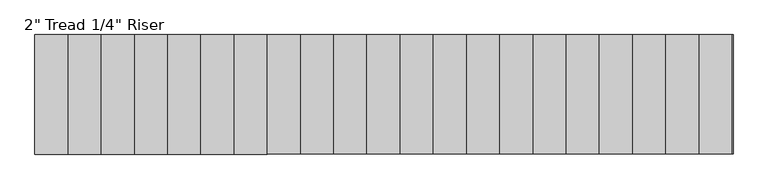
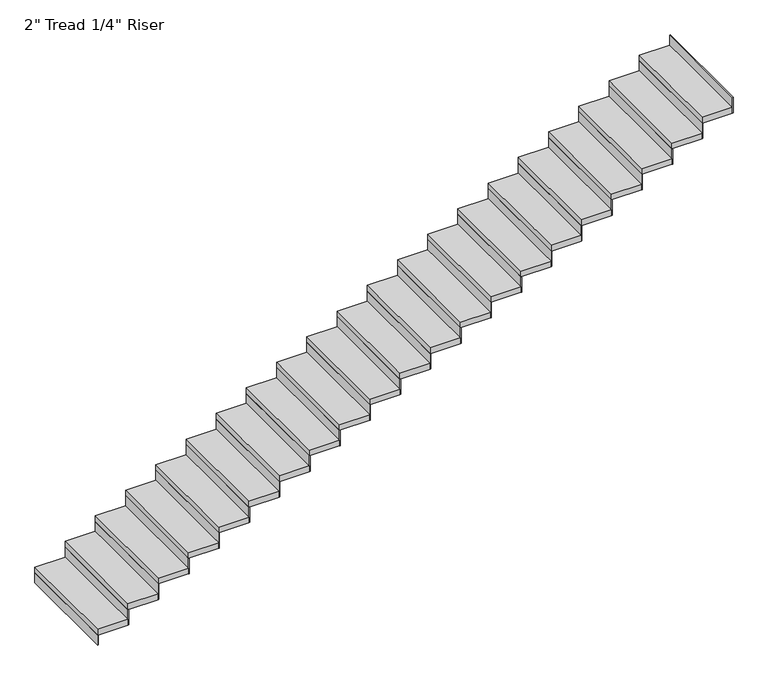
"""IFC4 building model written with IfcOpenShell, lengths in millimetres: stair flight geometry."""

from ifc_helpers import new_model, si_unit, frame, origin, origin_with_axes, place, context, project, spatial, polyline, outline, extrude, source, transform, mapped, element, save


def stair_flight_3b0c9d7e(model_context):
    return source(origin(), model_context, "Body", "SweptSolid", [
        extrude(outline(polyline([(47030.499343, -10136.835031), (47024.149343, -10136.835031), (47024.149343, -9222.435031), (47030.499343, -9222.435031), (47030.499343, -10136.835031)])), origin_with_axes(), (0.0, 0.0, 1.0), 87.7454545),
        extrude(outline(polyline([(47278.149343, -9222.435031), (47278.149343, -10136.835031), (47024.149343, -10136.835031), (47024.149343, -9222.435031), (47278.149343, -9222.435031)])), frame((0.0, 0.0, 87.7454545), z_axis=(0.0, 0.0, 1.0), x_axis=(1.0, 0.0, 0.0)), (0.0, 0.0, 1.0), 50.8),
        extrude(outline(polyline([(47284.499343, -10136.835031), (47278.149343, -10136.835031), (47278.149343, -9222.435031), (47284.499343, -9222.435031), (47284.499343, -10136.835031)])), frame((0.0, 0.0, 87.7454545), z_axis=(0.0, 0.0, 1.0), x_axis=(1.0, 0.0, 0.0)), (0.0, 0.0, 1.0), 138.5454545),
        extrude(outline(polyline([(47532.149343, -9222.435031), (47532.149343, -10136.835031), (47278.149343, -10136.835031), (47278.149343, -9222.435031), (47532.149343, -9222.435031)])), frame((0.0, 0.0, 226.2909091), z_axis=(0.0, 0.0, 1.0), x_axis=(1.0, 0.0, 0.0)), (0.0, 0.0, 1.0), 50.8),
        extrude(outline(polyline([(47538.499343, -10136.835031), (47532.149343, -10136.835031), (47532.149343, -9222.435031), (47538.499343, -9222.435031), (47538.499343, -10136.835031)])), frame((0.0, 0.0, 226.2909091), z_axis=(0.0, 0.0, 1.0), x_axis=(1.0, 0.0, 0.0)), (0.0, 0.0, 1.0), 138.5454545),
        extrude(outline(polyline([(47786.149343, -9222.435031), (47786.149343, -10136.835031), (47532.149343, -10136.835031), (47532.149343, -9222.435031), (47786.149343, -9222.435031)])), frame((0.0, 0.0, 364.8363636), z_axis=(0.0, 0.0, 1.0), x_axis=(1.0, 0.0, 0.0)), (0.0, 0.0, 1.0), 50.8),
        extrude(outline(polyline([(47792.499343, -10136.835031), (47786.149343, -10136.835031), (47786.149343, -9222.435031), (47792.499343, -9222.435031), (47792.499343, -10136.835031)])), frame((0.0, 0.0, 364.8363636), z_axis=(0.0, 0.0, 1.0), x_axis=(1.0, 0.0, 0.0)), (0.0, 0.0, 1.0), 138.5454545),
        extrude(outline(polyline([(48040.149343, -9222.435031), (48040.149343, -10136.835031), (47786.149343, -10136.835031), (47786.149343, -9222.435031), (48040.149343, -9222.435031)])), frame((0.0, 0.0, 503.3818182), z_axis=(0.0, 0.0, 1.0), x_axis=(1.0, 0.0, 0.0)), (0.0, 0.0, 1.0), 50.8),
        extrude(outline(polyline([(48046.499343, -10136.835031), (48040.149343, -10136.835031), (48040.149343, -9222.435031), (48046.499343, -9222.435031), (48046.499343, -10136.835031)])), frame((0.0, 0.0, 503.3818182), z_axis=(0.0, 0.0, 1.0), x_axis=(1.0, 0.0, 0.0)), (0.0, 0.0, 1.0), 138.5454545),
        extrude(outline(polyline([(48294.149343, -9222.435031), (48294.149343, -10136.835031), (48040.149343, -10136.835031), (48040.149343, -9222.435031), (48294.149343, -9222.435031)])), frame((0.0, 0.0, 641.9272727), z_axis=(0.0, 0.0, 1.0), x_axis=(1.0, 0.0, 0.0)), (0.0, 0.0, 1.0), 50.8),
        extrude(outline(polyline([(48300.499343, -10136.835031), (48294.149343, -10136.835031), (48294.149343, -9222.435031), (48300.499343, -9222.435031), (48300.499343, -10136.835031)])), frame((0.0, 0.0, 641.9272727), z_axis=(0.0, 0.0, 1.0), x_axis=(1.0, 0.0, 0.0)), (0.0, 0.0, 1.0), 138.5454545),
        extrude(outline(polyline([(48548.149343, -9222.435031), (48548.149343, -10136.835031), (48294.149343, -10136.835031), (48294.149343, -9222.435031), (48548.149343, -9222.435031)])), frame((0.0, 0.0, 780.4727273), z_axis=(0.0, 0.0, 1.0), x_axis=(1.0, 0.0, 0.0)), (0.0, 0.0, 1.0), 50.8),
        extrude(outline(polyline([(48554.499343, -10136.835031), (48548.149343, -10136.835031), (48548.149343, -9222.435031), (48554.499343, -9222.435031), (48554.499343, -10136.835031)])), frame((0.0, 0.0, 780.4727273), z_axis=(0.0, 0.0, 1.0), x_axis=(1.0, 0.0, 0.0)), (0.0, 0.0, 1.0), 138.5454545),
        extrude(outline(polyline([(48802.149343, -9222.435031), (48802.149343, -10136.835031), (48548.149343, -10136.835031), (48548.149343, -9222.435031), (48802.149343, -9222.435031)])), frame((0.0, 0.0, 919.0181818), z_axis=(0.0, 0.0, 1.0), x_axis=(1.0, 0.0, 0.0)), (0.0, 0.0, 1.0), 50.8),
        extrude(outline(polyline([(48808.499343, -10136.835031), (48802.149343, -10136.835031), (48802.149343, -9222.435031), (48808.499343, -9222.435031), (48808.499343, -10136.835031)])), frame((0.0, 0.0, 919.0181818), z_axis=(0.0, 0.0, 1.0), x_axis=(1.0, 0.0, 0.0)), (0.0, 0.0, 1.0), 138.5454545),
        extrude(outline(polyline([(49056.149343, -9222.435031), (49056.149343, -10136.835031), (48802.149343, -10136.835031), (48802.149343, -9222.435031), (49056.149343, -9222.435031)])), frame((0.0, 0.0, 1057.5636364), z_axis=(0.0, 0.0, 1.0), x_axis=(1.0, 0.0, 0.0)), (0.0, 0.0, 1.0), 50.8),
        extrude(outline(polyline([(49062.499343, -10136.835031), (49056.149343, -10136.835031), (49056.149343, -9222.435031), (49062.499343, -9222.435031), (49062.499343, -10136.835031)])), frame((0.0, 0.0, 1057.5636364), z_axis=(0.0, 0.0, 1.0), x_axis=(1.0, 0.0, 0.0)), (0.0, 0.0, 1.0), 138.5454545),
        extrude(outline(polyline([(49310.149343, -9222.435031), (49310.149343, -10136.835031), (49056.149343, -10136.835031), (49056.149343, -9222.435031), (49310.149343, -9222.435031)])), frame((0.0, 0.0, 1196.1090909), z_axis=(0.0, 0.0, 1.0), x_axis=(1.0, 0.0, 0.0)), (0.0, 0.0, 1.0), 50.8),
        extrude(outline(polyline([(49316.499343, -10136.835031), (49310.149343, -10136.835031), (49310.149343, -9222.435031), (49316.499343, -9222.435031), (49316.499343, -10136.835031)])), frame((0.0, 0.0, 1196.1090909), z_axis=(0.0, 0.0, 1.0), x_axis=(1.0, 0.0, 0.0)), (0.0, 0.0, 1.0), 138.5454545),
        extrude(outline(polyline([(49564.149343, -9222.435031), (49564.149343, -10136.835031), (49310.149343, -10136.835031), (49310.149343, -9222.435031), (49564.149343, -9222.435031)])), frame((0.0, 0.0, 1334.6545455), z_axis=(0.0, 0.0, 1.0), x_axis=(1.0, 0.0, 0.0)), (0.0, 0.0, 1.0), 50.8),
        extrude(outline(polyline([(49570.499343, -10136.835031), (49564.149343, -10136.835031), (49564.149343, -9222.435031), (49570.499343, -9222.435031), (49570.499343, -10136.835031)])), frame((0.0, 0.0, 1334.6545455), z_axis=(0.0, 0.0, 1.0), x_axis=(1.0, 0.0, 0.0)), (0.0, 0.0, 1.0), 138.5454545),
        extrude(outline(polyline([(49818.149343, -9222.435031), (49818.149343, -10136.835031), (49564.149343, -10136.835031), (49564.149343, -9222.435031), (49818.149343, -9222.435031)])), frame((0.0, 0.0, 1473.2), z_axis=(0.0, 0.0, 1.0), x_axis=(1.0, 0.0, 0.0)), (0.0, 0.0, 1.0), 50.8),
        extrude(outline(polyline([(49824.499343, -10136.835031), (49818.149343, -10136.835031), (49818.149343, -9222.435031), (49824.499343, -9222.435031), (49824.499343, -10136.835031)])), frame((0.0, 0.0, 1473.2), z_axis=(0.0, 0.0, 1.0), x_axis=(1.0, 0.0, 0.0)), (0.0, 0.0, 1.0), 138.5454545),
        extrude(outline(polyline([(50072.149343, -9222.435031), (50072.149343, -10136.835031), (49818.149343, -10136.835031), (49818.149343, -9222.435031), (50072.149343, -9222.435031)])), frame((0.0, 0.0, 1611.7454545), z_axis=(0.0, 0.0, 1.0), x_axis=(1.0, 0.0, 0.0)), (0.0, 0.0, 1.0), 50.8),
        extrude(outline(polyline([(50078.499343, -10136.835031), (50072.149343, -10136.835031), (50072.149343, -9222.435031), (50078.499343, -9222.435031), (50078.499343, -10136.835031)])), frame((0.0, 0.0, 1611.7454545), z_axis=(0.0, 0.0, 1.0), x_axis=(1.0, 0.0, 0.0)), (0.0, 0.0, 1.0), 138.5454545),
        extrude(outline(polyline([(50326.149343, -9222.435031), (50326.149343, -10136.835031), (50072.149343, -10136.835031), (50072.149343, -9222.435031), (50326.149343, -9222.435031)])), frame((0.0, 0.0, 1750.2909091), z_axis=(0.0, 0.0, 1.0), x_axis=(1.0, 0.0, 0.0)), (0.0, 0.0, 1.0), 50.8),
        extrude(outline(polyline([(50332.499343, -10136.835031), (50326.149343, -10136.835031), (50326.149343, -9222.435031), (50332.499343, -9222.435031), (50332.499343, -10136.835031)])), frame((0.0, 0.0, 1750.2909091), z_axis=(0.0, 0.0, 1.0), x_axis=(1.0, 0.0, 0.0)), (0.0, 0.0, 1.0), 138.5454545),
        extrude(outline(polyline([(50580.149343, -9222.435031), (50580.149343, -10136.835031), (50326.149343, -10136.835031), (50326.149343, -9222.435031), (50580.149343, -9222.435031)])), frame((0.0, 0.0, 1888.8363636), z_axis=(0.0, 0.0, 1.0), x_axis=(1.0, 0.0, 0.0)), (0.0, 0.0, 1.0), 50.8),
        extrude(outline(polyline([(50586.499343, -10136.835031), (50580.149343, -10136.835031), (50580.149343, -9222.435031), (50586.499343, -9222.435031), (50586.499343, -10136.835031)])), frame((0.0, 0.0, 1888.8363636), z_axis=(0.0, 0.0, 1.0), x_axis=(1.0, 0.0, 0.0)), (0.0, 0.0, 1.0), 138.5454545),
        extrude(outline(polyline([(50834.149343, -9222.435031), (50834.149343, -10136.835031), (50580.149343, -10136.835031), (50580.149343, -9222.435031), (50834.149343, -9222.435031)])), frame((0.0, 0.0, 2027.3818182), z_axis=(0.0, 0.0, 1.0), x_axis=(1.0, 0.0, 0.0)), (0.0, 0.0, 1.0), 50.8),
        extrude(outline(polyline([(50840.499343, -10136.835031), (50834.149343, -10136.835031), (50834.149343, -9222.435031), (50840.499343, -9222.435031), (50840.499343, -10136.835031)])), frame((0.0, 0.0, 2027.3818182), z_axis=(0.0, 0.0, 1.0), x_axis=(1.0, 0.0, 0.0)), (0.0, 0.0, 1.0), 138.5454545),
        extrude(outline(polyline([(51088.149343, -9222.435031), (51088.149343, -10136.835031), (50834.149343, -10136.835031), (50834.149343, -9222.435031), (51088.149343, -9222.435031)])), frame((0.0, 0.0, 2165.9272727), z_axis=(0.0, 0.0, 1.0), x_axis=(1.0, 0.0, 0.0)), (0.0, 0.0, 1.0), 50.8),
        extrude(outline(polyline([(51094.499343, -10136.835031), (51088.149343, -10136.835031), (51088.149343, -9222.435031), (51094.499343, -9222.435031), (51094.499343, -10136.835031)])), frame((0.0, 0.0, 2165.9272727), z_axis=(0.0, 0.0, 1.0), x_axis=(1.0, 0.0, 0.0)), (0.0, 0.0, 1.0), 138.5454545),
        extrude(outline(polyline([(51342.149343, -9222.435031), (51342.149343, -10136.835031), (51088.149343, -10136.835031), (51088.149343, -9222.435031), (51342.149343, -9222.435031)])), frame((0.0, 0.0, 2304.4727273), z_axis=(0.0, 0.0, 1.0), x_axis=(1.0, 0.0, 0.0)), (0.0, 0.0, 1.0), 50.8),
        extrude(outline(polyline([(51348.499343, -10136.835031), (51342.149343, -10136.835031), (51342.149343, -9222.435031), (51348.499343, -9222.435031), (51348.499343, -10136.835031)])), frame((0.0, 0.0, 2304.4727273), z_axis=(0.0, 0.0, 1.0), x_axis=(1.0, 0.0, 0.0)), (0.0, 0.0, 1.0), 138.5454545),
        extrude(outline(polyline([(51596.149343, -9222.435031), (51596.149343, -10136.835031), (51342.149343, -10136.835031), (51342.149343, -9222.435031), (51596.149343, -9222.435031)])), frame((0.0, 0.0, 2443.0181818), z_axis=(0.0, 0.0, 1.0), x_axis=(1.0, 0.0, 0.0)), (0.0, 0.0, 1.0), 50.8),
        extrude(outline(polyline([(51602.499343, -10136.835031), (51596.149343, -10136.835031), (51596.149343, -9222.435031), (51602.499343, -9222.435031), (51602.499343, -10136.835031)])), frame((0.0, 0.0, 2443.0181818), z_axis=(0.0, 0.0, 1.0), x_axis=(1.0, 0.0, 0.0)), (0.0, 0.0, 1.0), 138.5454545),
        extrude(outline(polyline([(51850.149343, -9222.435031), (51850.149343, -10136.835031), (51596.149343, -10136.835031), (51596.149343, -9222.435031), (51850.149343, -9222.435031)])), frame((0.0, 0.0, 2581.5636364), z_axis=(0.0, 0.0, 1.0), x_axis=(1.0, 0.0, 0.0)), (0.0, 0.0, 1.0), 50.8),
        extrude(outline(polyline([(51856.499343, -10136.835031), (51850.149343, -10136.835031), (51850.149343, -9222.435031), (51856.499343, -9222.435031), (51856.499343, -10136.835031)])), frame((0.0, 0.0, 2581.5636364), z_axis=(0.0, 0.0, 1.0), x_axis=(1.0, 0.0, 0.0)), (0.0, 0.0, 1.0), 138.5454545),
        extrude(outline(polyline([(52104.149343, -9222.435031), (52104.149343, -10136.835031), (51850.149343, -10136.835031), (51850.149343, -9222.435031), (52104.149343, -9222.435031)])), frame((0.0, 0.0, 2720.1090909), z_axis=(0.0, 0.0, 1.0), x_axis=(1.0, 0.0, 0.0)), (0.0, 0.0, 1.0), 50.8),
        extrude(outline(polyline([(52110.499343, -10136.835031), (52104.149343, -10136.835031), (52104.149343, -9222.435031), (52110.499343, -9222.435031), (52110.499343, -10136.835031)])), frame((0.0, 0.0, 2720.1090909), z_axis=(0.0, 0.0, 1.0), x_axis=(1.0, 0.0, 0.0)), (0.0, 0.0, 1.0), 138.5454545),
        extrude(outline(polyline([(52364.499343, -10136.835031), (52358.149343, -10136.835031), (52358.149343, -9222.435031), (52364.499343, -9222.435031), (52364.499343, -10136.835031)])), frame((0.0, 0.0, 2858.6545455), z_axis=(0.0, 0.0, 1.0), x_axis=(1.0, 0.0, 0.0)), (0.0, 0.0, 1.0), 138.5454545),
        extrude(outline(polyline([(52358.149343, -9222.435031), (52358.149343, -10136.835031), (52104.149343, -10136.835031), (52104.149343, -9222.435031), (52358.149343, -9222.435031)])), frame((0.0, 0.0, 2858.6545455), z_axis=(0.0, 0.0, 1.0), x_axis=(1.0, 0.0, 0.0)), (0.0, 0.0, 1.0), 50.8),
    ])


if __name__ == "__main__":
    model = new_model("IFC4")
    model_context = context("Model", 3, world=origin())
    ifc_project = project(units=[si_unit("LENGTHUNIT", "METRE", prefix="MILLI")], contexts=[model_context])
    site = spatial("IfcSite", under=ifc_project)
    building = spatial("IfcBuilding", under=site)
    placement = place(None, origin())
    stair_flight_shape = stair_flight_3b0c9d7e(model_context)
    element("IfcStairFlight", 1, ObjectType="2\" Tread 1/4\" Riser", at=placement, inside=building, context=model_context, shape_type="MappedRepresentation", body=[
        mapped(stair_flight_shape, transform((0.0, 0.0, 0.0), x_axis=(1.0, 0.0, 0.0), y_axis=(0.0, 1.0, 0.0), z_axis=(0.0, 0.0, 1.0))),
    ])
    save(model, "model.ifc")
